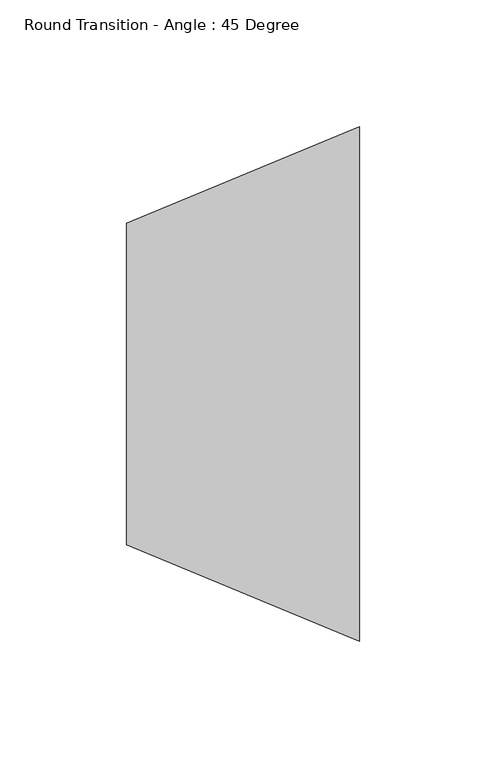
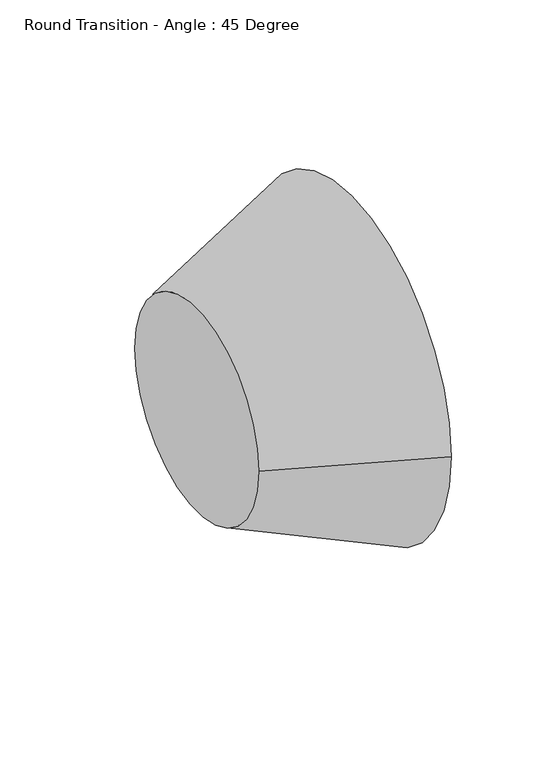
"""IFC4 building model written with IfcOpenShell, lengths in millimetres: duct fitting geometry, Round Transition - Angle : 45 Degree."""

import ifcopenshell
import ifcopenshell.guid

model = None  # the IFC model being written
_history = None  # IfcOwnerHistory: only IFC2X3 demands one
_inside = {}  # id of a spatial element -> (the spatial element, [elements in it])
_under = {}  # id of a project, library or spatial element -> (it, [spatial elements below it])
_declared = {}  # id of a project -> (the project, [libraries it declares])
_typed = {}  # id of a type object -> (the type object, [elements of that type])
_made_of = {}  # id of a material, layer set ... -> (it, [elements and type objects made of it])


def new_model(schema):
    """Start an empty IFC model of exactly this schema.

    Asked for "IFC4X3", IfcOpenShell would pick the latest addendum, in which some entities
    have other attributes; the version numbers below select the first issue.
    IFC2X3 requires an IfcOwnerHistory on every rooted entity: one is made here for all.
    """
    global model, _history
    if schema == "IFC4X3":
        model = ifcopenshell.file(schema_version=(4, 3, 0, 0))
    else:
        model = ifcopenshell.file(schema=schema)
    _inside.clear()
    _under.clear()
    _declared.clear()
    _typed.clear()
    _made_of.clear()
    _history = None
    if model.schema == "IFC2X3":
        org = make("IfcOrganization", Name="unknown")
        user = make(
            "IfcPersonAndOrganization",
            ThePerson=make("IfcPerson", FamilyName="unknown"),
            TheOrganization=org,
        )
        app = make(
            "IfcApplication",
            ApplicationDeveloper=org,
            Version="unknown",
            ApplicationFullName="unknown",
            ApplicationIdentifier="unknown",
        )
        _history = make(
            "IfcOwnerHistory",
            OwningUser=user,
            OwningApplication=app,
            ChangeAction="ADDED",
            CreationDate=0,
        )
    return model


def make(cls, **values):
    """One entity of the class cls with the attributes given. An attribute that is None is left unset."""
    return model.create_entity(
        cls, **{name: value for name, value in values.items() if value is not None}
    )


def rooted(cls, **values):
    """An entity with a GlobalId (a new one), such as an element, a storey or a relation."""
    return make(cls, GlobalId=ifcopenshell.guid.new(), OwnerHistory=_history, **values)


def si_unit(unit_type, name, prefix=None):
    """IfcSIUnit, for example si_unit("LENGTHUNIT", "METRE", prefix="MILLI")."""
    return make("IfcSIUnit", UnitType=unit_type, Prefix=prefix, Name=name)


def assignment(units):
    """IfcUnitAssignment: the units of a project."""
    return None if units is None else make("IfcUnitAssignment", Units=units)


def point(xyz):
    """IfcCartesianPoint."""
    return None if xyz is None else make("IfcCartesianPoint", Coordinates=xyz)


def direction(xyz):
    """IfcDirection."""
    return None if xyz is None else make("IfcDirection", DirectionRatios=xyz)


def frame(location, z_axis=None, x_axis=None):
    """IfcAxis2Placement3D, a coordinate frame: its origin and axes. An axis left out is left unset."""
    return make(
        "IfcAxis2Placement3D",
        Location=point(location),
        Axis=direction(z_axis),
        RefDirection=direction(x_axis),
    )


def origin():
    """The frame at (0, 0, 0) with its axes left unset."""
    return frame((0.0, 0.0, 0.0))


def place(relative_to, where):
    """IfcLocalPlacement: puts the frame where relative to a parent placement (None: the world)."""
    return make(
        "IfcLocalPlacement", PlacementRelTo=relative_to, RelativePlacement=where
    )


def context(
    kind, dimensions, precision=None, world=None, true_north=None, identifier=None
):
    """IfcGeometricRepresentationContext, for example the 3D "Model" context."""
    return make(
        "IfcGeometricRepresentationContext",
        ContextIdentifier=identifier,
        ContextType=kind,
        CoordinateSpaceDimension=dimensions,
        Precision=precision,
        WorldCoordinateSystem=world,
        TrueNorth=true_north,
    )


def project(units=None, contexts=None):
    """IfcProject with its units and contexts."""
    return rooted(
        "IfcProject",
        Name="project",
        RepresentationContexts=contexts,
        UnitsInContext=assignment(units),
    )


def spatial(cls, under=None, at=None, **own):
    """A site, building, storey or space (cls), placed at a placement, below another one or the project."""
    s = rooted(cls, ObjectPlacement=at, **own)
    if under is not None:
        _under.setdefault(under.id(), (under, []))[1].append(s)
    return s


def polyline(points):
    """IfcPolyline through the points."""
    return make("IfcPolyline", Points=[point(p) for p in points])


def circle_curve(where, radius):
    """IfcCircle in the frame where."""
    return make("IfcCircle", Position=where, Radius=radius)


def shape(context_of_items, identifier, shape_type, items):
    """IfcShapeRepresentation: the items that make up one representation, for example the "Body"."""
    return make(
        "IfcShapeRepresentation",
        ContextOfItems=context_of_items,
        RepresentationIdentifier=identifier,
        RepresentationType=shape_type,
        Items=items,
    )


def source(mapping_origin, context_of_items, identifier, shape_type, items):
    """IfcRepresentationMap: a shape defined once, which mapped items show again and again."""
    return make(
        "IfcRepresentationMap",
        MappingOrigin=mapping_origin,
        MappedRepresentation=shape(context_of_items, identifier, shape_type, items),
    )


def transform(
    local_origin,
    x_axis=None,
    y_axis=None,
    z_axis=None,
    scale=None,
    scale2=None,
    scale3=None,
    uniform=True,
):
    """IfcCartesianTransformationOperator3D, or its non-uniform kind. x_axis, y_axis, z_axis: its Axis1, 2, 3."""
    if uniform:
        return make(
            "IfcCartesianTransformationOperator3D",
            Axis1=direction(x_axis),
            Axis2=direction(y_axis),
            LocalOrigin=point(local_origin),
            Scale=scale,
            Axis3=direction(z_axis),
        )
    return make(
        "IfcCartesianTransformationOperator3DnonUniform",
        Axis1=direction(x_axis),
        Axis2=direction(y_axis),
        LocalOrigin=point(local_origin),
        Scale=scale,
        Axis3=direction(z_axis),
        Scale2=scale2,
        Scale3=scale3,
    )


def mapped(mapping_source, mapping_target):
    """IfcMappedItem: shows the shape of a source again, moved by a transform."""
    return make(
        "IfcMappedItem", MappingSource=mapping_source, MappingTarget=mapping_target
    )


def made_of(thing, what):
    """Note that an element or type object is made of a material, layer set ...; save() writes the relation."""
    if what is not None:
        _made_of.setdefault(what.id(), (what, []))[1].append(thing)
    return thing


def element(
    cls,
    number,
    at=None,
    inside=None,
    cuts=None,
    type_object=None,
    material=None,
    context=None,
    identifier="Body",
    shape_type=None,
    held_by="IfcProductDefinitionShape",
    body=None,
    shapes=None,
    **own,
):
    """One element of the class cls, such as IfcWall. Its Tag is "e" and its number.

    at: its placement. inside: the storey or other place that contains it. cuts: it is an
    opening in that element (IfcRelVoidsElement). A single representation is given by context,
    identifier, shape_type and body (its items); several are given by shapes. held_by: the class
    of the entity that holds the representations. save() writes the other relations.
    """
    e = rooted(cls, Tag="e%d" % number, ObjectPlacement=at, **own)
    if body is not None:
        shapes = [shape(context, identifier, shape_type, body)]
    if shapes is not None:
        e.Representation = make(held_by, Representations=shapes)
    if inside is not None:
        _inside.setdefault(inside.id(), (inside, []))[1].append(e)
    if cuts is not None:
        rooted(
            "IfcRelVoidsElement", RelatingBuildingElement=cuts, RelatedOpeningElement=e
        )
    if type_object is not None:
        _typed.setdefault(type_object.id(), (type_object, []))[1].append(e)
    return made_of(e, material)


def aggregate(whole, parts):
    """IfcRelAggregates: a whole, such as a stair, and the parts it consists of."""
    return rooted("IfcRelAggregates", RelatingObject=whole, RelatedObjects=parts)


def save(model, path):
    """Write the relations noted so far, then the file.

    IfcRelAggregates (storeys below a building ...), IfcRelContainedInSpatialStructure (elements
    in a storey), IfcRelDefinesByType, IfcRelAssociatesMaterial and IfcRelDeclares: one each for
    every whole, place, type object, material and project.
    """
    for whole, parts in _under.values():
        aggregate(whole, parts)
    for where, things in _inside.values():
        rooted(
            "IfcRelContainedInSpatialStructure",
            RelatedElements=things,
            RelatingStructure=where,
        )
    for kind, things in _typed.values():
        rooted("IfcRelDefinesByType", RelatedObjects=things, RelatingType=kind)
    for what, things in _made_of.values():
        rooted("IfcRelAssociatesMaterial", RelatedObjects=things, RelatingMaterial=what)
    for by, libraries in _declared.values():
        rooted("IfcRelDeclares", RelatingContext=by, RelatedDefinitions=libraries)
    model.write(path)


def plane_surface(at):
    """IfcPlane: the flat surface through the origin of the frame at, square to its z axis."""
    return make("IfcPlane", Position=at)


def revolved_surface(curve, axis_point, axis_direction):
    """IfcSurfaceOfRevolution: the curve turned about the line through axis_point along axis_direction."""
    return make(
        "IfcSurfaceOfRevolution",
        SweptCurve=make("IfcArbitraryOpenProfileDef", ProfileType="CURVE", Curve=curve),
        AxisPosition=make("IfcAxis1Placement", Location=point(axis_point), Axis=direction(axis_direction)),
    )


def advanced_brep(points, edges, surfaces, faces):
    """IfcAdvancedBrep: a solid bounded by faces that lie on surfaces and meet in shared edges.

    An edge is (start, end): straight between two places in points (the first is 0);
    or (start, end, curve); or (start, end, curve, False) where it runs against its curve.
    A face is (place in surfaces, loops), or (place, loops, False) where it looks against
    its surface's normal. A loop lists edges by number (the first is 1), with a minus sign
    where the edge is run from its end to its start. The first loop is the outer one.
    """
    corners = [point(p) for p in points]
    vertices = [make("IfcVertexPoint", VertexGeometry=c) for c in corners]
    made = []
    for start, end, *more in edges:
        made.append(
            make(
                "IfcEdgeCurve",
                EdgeStart=vertices[start],
                EdgeEnd=vertices[end],
                EdgeGeometry=more[0] if more else make("IfcPolyline", Points=[corners[start], corners[end]]),
                SameSense=more[1] if len(more) > 1 else True,
            )
        )
    hull = []
    for where, loops, *sense in faces:
        bounds = []
        for j, loop in enumerate(loops):
            ring = [make("IfcOrientedEdge", EdgeElement=made[abs(k) - 1], Orientation=k > 0) for k in loop]
            bounds.append(
                make(
                    "IfcFaceOuterBound" if j == 0 else "IfcFaceBound",
                    Bound=make("IfcEdgeLoop", EdgeList=ring),
                    Orientation=True,
                )
            )
        hull.append(make("IfcAdvancedFace", Bounds=bounds, FaceSurface=surfaces[where], SameSense=sense[0] if sense else True))
    return make("IfcAdvancedBrep", Outer=make("IfcClosedShell", CfsFaces=hull))


def round_transition_angle_45_degree_a4d0e481(model_context):
    return source(origin(), model_context, "Body", "AdvancedBrep", [
        advanced_brep(
        [(91.9815367, -101.6, 0.0), (91.9815367, 101.6, 0.0), (0.0, -63.5, 0.0), (0.0, 63.5, 0.0)],
        [
            (0, 1, circle_curve(frame((91.9815367, 0.0, 0.0), z_axis=(1.0, 0.0, 0.0), x_axis=(0.0, -1.0, 0.0)), 101.6)),
            (1, 0, circle_curve(frame((91.9815367, 0.0, 0.0), z_axis=(1.0, 0.0, 0.0), x_axis=(0.0, 1.0, 0.0)), 101.6)),
            (2, 3, circle_curve(frame((0.0, 0.0, 0.0), z_axis=(-1.0, 0.0, 0.0), x_axis=(0.0, 1.0, 0.0)), 63.5)),
            (3, 2, circle_curve(frame((0.0, 0.0, 0.0), z_axis=(-1.0, 0.0, 0.0), x_axis=(0.0, -1.0, 0.0)), 63.5)),
            (3, 1),
            (0, 2),
        ],
        [
            plane_surface(frame((91.9815367, 0.0, 0.0), z_axis=(1.0, 0.0, 0.0), x_axis=(0.0, 0.0, -1.0))),
            plane_surface(frame((0.0, 0.0, 0.0), z_axis=(-1.0, 0.0, 0.0), x_axis=(0.0, 0.0, -1.0))),
            revolved_surface(polyline([(0.0, 63.50000000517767, 0.0), (91.98153669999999, 101.6, 0.0)]), (-153.3025612, 0.0, 0.0), (1.0, 0.0, 0.0)),
            revolved_surface(polyline([(0.0, -63.50000000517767, 0.0), (91.98153669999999, -101.6, 0.0)]), (-153.3025612, 0.0, 0.0), (1.0, 0.0, 0.0)),
        ],
        [
            (0, [[1, 2]]),
            (1, [[3, 4]]),
            (2, [[-4, 5, -1, 6]]),
            (3, [[-3, -6, -2, -5]]),
        ],
    ),
    ])


if __name__ == "__main__":
    model = new_model("IFC4")
    model_context = context("Model", 3, world=origin())
    ifc_project = project(units=[si_unit("LENGTHUNIT", "METRE", prefix="MILLI")], contexts=[model_context])
    site = spatial("IfcSite", under=ifc_project)
    building = spatial("IfcBuilding", under=site)
    placement = place(None, origin())
    round_transition_angle_45_degree_shape = round_transition_angle_45_degree_a4d0e481(model_context)
    element("IfcDuctFitting", 1, ObjectType="Round Transition - Angle : 45 Degree", at=placement, inside=building, context=model_context, shape_type="MappedRepresentation", body=[
        mapped(round_transition_angle_45_degree_shape, transform((0.0, 0.0, 0.0), x_axis=(1.0, 0.0, 0.0), y_axis=(0.0, 1.0, 0.0), z_axis=(0.0, 0.0, 1.0))),
    ])
    save(model, "model.ifc")
